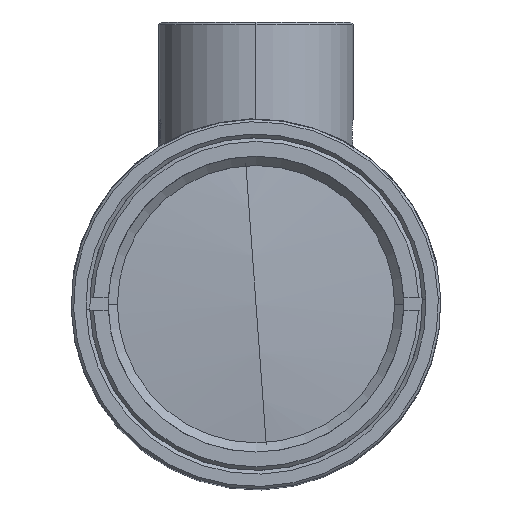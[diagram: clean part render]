
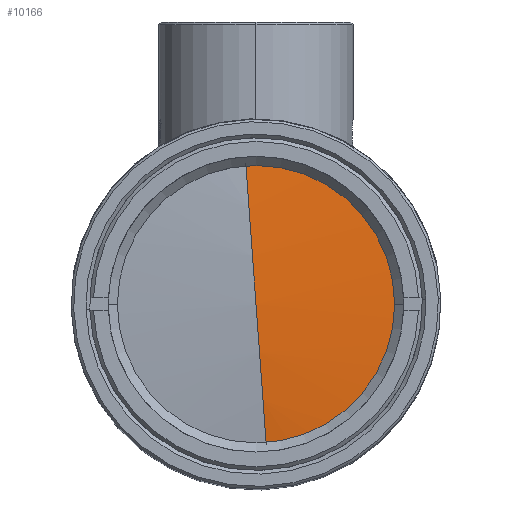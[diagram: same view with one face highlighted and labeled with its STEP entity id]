
A CAD part, top view. The second image highlights one B-rep face of the part: STEP entity #10166.
In plain terms, the highlighted spherical face has radius 97.7 mm.
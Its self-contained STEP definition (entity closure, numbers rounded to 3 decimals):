
#9633 = EDGE_CURVE('',#9634,#9636,#9638,.T.);
#9634 = VERTEX_POINT('',#9635);
#9635 = CARTESIAN_POINT('',(11.741,0.854,
    140.844));
#9636 = VERTEX_POINT('',#9637);
#9637 = CARTESIAN_POINT('',(-0.854,11.741,
    140.844));
#9638 = SURFACE_CURVE('',#9639,(#9644,#9656),.PCURVE_S1.);
#9639 = CIRCLE('',#9640,11.772);
#9640 = AXIS2_PLACEMENT_3D('',#9641,#9642,#9643);
#9641 = CARTESIAN_POINT('',(0.,0.,
    140.844));
#9642 = DIRECTION('',(-0.,0.,1.));
#9643 = DIRECTION('',(-0.997,-0.073,-0.));
#9644 = PCURVE('',#9645,#9650);
#9645 = CONICAL_SURFACE('',#9646,11.772,0.785);
#9646 = AXIS2_PLACEMENT_3D('',#9647,#9648,#9649);
#9647 = CARTESIAN_POINT('',(0.,0.,
    140.844));
#9648 = DIRECTION('',(0.,0.,-1.));
#9649 = DIRECTION('',(-0.997,-0.073,-0.));
#9650 = DEFINITIONAL_REPRESENTATION('',(#9651),#9655);
#9651 = LINE('',#9652,#9653);
#9652 = CARTESIAN_POINT('',(6.283,0.));
#9653 = VECTOR('',#9654,1.);
#9654 = DIRECTION('',(-1.,0.));
#9655 = ( GEOMETRIC_REPRESENTATION_CONTEXT(2) 
PARAMETRIC_REPRESENTATION_CONTEXT() REPRESENTATION_CONTEXT('',''
  ) );
#9656 = PCURVE('',#9657,#9662);
#9657 = SPHERICAL_SURFACE('',#9658,97.7);
#9658 = AXIS2_PLACEMENT_3D('',#9659,#9660,#9661);
#9659 = CARTESIAN_POINT('',(0.,0.,43.856
    ));
#9660 = DIRECTION('',(-0.997,-0.073,0.));
#9661 = DIRECTION('',(-0.073,0.997,0.));
#9662 = DEFINITIONAL_REPRESENTATION('',(#9663),#9689);
#9663 = B_SPLINE_CURVE_WITH_KNOTS('',3,(#9664,#9665,#9666,#9667,#9668,
    #9669,#9670,#9671,#9672,#9673,#9674,#9675,#9676,#9677,#9678,#9679,
    #9680,#9681,#9682,#9683,#9684,#9685,#9686,#9687,#9688),
  .UNSPECIFIED.,.F.,.F.,(4,1,1,1,1,1,1,1,1,1,1,1,1,1,1,1,1,1,1,1,1,1,4),
  (3.142,3.213,3.284,3.356,
    3.427,3.499,3.57,3.641,
    3.713,3.784,3.856,3.927,
    3.998,4.07,4.141,4.213,
    4.284,4.355,4.427,4.498,
    4.57,4.641,4.712),
  .QUASI_UNIFORM_KNOTS.);
#9664 = CARTESIAN_POINT('',(4.712,-0.121));
#9665 = CARTESIAN_POINT('',(4.715,-0.121));
#9666 = CARTESIAN_POINT('',(4.721,-0.121));
#9667 = CARTESIAN_POINT('',(4.73,-0.12));
#9668 = CARTESIAN_POINT('',(4.738,-0.118));
#9669 = CARTESIAN_POINT('',(4.747,-0.116));
#9670 = CARTESIAN_POINT('',(4.755,-0.113));
#9671 = CARTESIAN_POINT('',(4.763,-0.11));
#9672 = CARTESIAN_POINT('',(4.771,-0.106));
#9673 = CARTESIAN_POINT('',(4.778,-0.102));
#9674 = CARTESIAN_POINT('',(4.785,-0.097));
#9675 = CARTESIAN_POINT('',(4.792,-0.091));
#9676 = CARTESIAN_POINT('',(4.798,-0.085));
#9677 = CARTESIAN_POINT('',(4.804,-0.079));
#9678 = CARTESIAN_POINT('',(4.809,-0.072));
#9679 = CARTESIAN_POINT('',(4.814,-0.065));
#9680 = CARTESIAN_POINT('',(4.819,-0.058));
#9681 = CARTESIAN_POINT('',(4.822,-0.05));
#9682 = CARTESIAN_POINT('',(4.826,-0.042));
#9683 = CARTESIAN_POINT('',(4.828,-0.034));
#9684 = CARTESIAN_POINT('',(4.831,-0.026));
#9685 = CARTESIAN_POINT('',(4.832,-0.017));
#9686 = CARTESIAN_POINT('',(4.833,-0.009));
#9687 = CARTESIAN_POINT('',(4.833,-0.003));
#9688 = CARTESIAN_POINT('',(4.833,0.));
#9689 = ( GEOMETRIC_REPRESENTATION_CONTEXT(2) 
PARAMETRIC_REPRESENTATION_CONTEXT() REPRESENTATION_CONTEXT('',''
  ) );
#9707 = CONICAL_SURFACE('',#9708,11.772,0.785);
#9708 = AXIS2_PLACEMENT_3D('',#9709,#9710,#9711);
#9709 = CARTESIAN_POINT('',(0.,0.,
    140.844));
#9710 = DIRECTION('',(0.,0.,-1.));
#9711 = DIRECTION('',(-0.997,-0.073,-0.));
#9786 = SPHERICAL_SURFACE('',#9787,97.7);
#9787 = AXIS2_PLACEMENT_3D('',#9788,#9789,#9790);
#9788 = CARTESIAN_POINT('',(0.,0.,43.856
    ));
#9789 = DIRECTION('',(-0.997,-0.073,0.));
#9790 = DIRECTION('',(-0.073,0.997,0.));
#10076 = VERTEX_POINT('',#10077);
#10077 = CARTESIAN_POINT('',(0.854,-11.741,
    140.844));
#10121 = EDGE_CURVE('',#10076,#10122,#10124,.T.);
#10122 = VERTEX_POINT('',#10123);
#10123 = CARTESIAN_POINT('',(0.,0.,
    141.556));
#10124 = SURFACE_CURVE('',#10125,(#10130,#10137),.PCURVE_S1.);
#10125 = CIRCLE('',#10126,97.7);
#10126 = AXIS2_PLACEMENT_3D('',#10127,#10128,#10129);
#10127 = CARTESIAN_POINT('',(0.,0.,
    43.856));
#10128 = DIRECTION('',(-0.997,-0.073,0.));
#10129 = DIRECTION('',(0.073,-0.997,0.));
#10130 = PCURVE('',#9786,#10131);
#10131 = DEFINITIONAL_REPRESENTATION('',(#10132),#10136);
#10132 = LINE('',#10133,#10134);
#10133 = CARTESIAN_POINT('',(3.142,0.));
#10134 = VECTOR('',#10135,1.);
#10135 = DIRECTION('',(1.,0.));
#10136 = ( GEOMETRIC_REPRESENTATION_CONTEXT(2) 
PARAMETRIC_REPRESENTATION_CONTEXT() REPRESENTATION_CONTEXT('',''
  ) );
#10137 = PCURVE('',#9657,#10138);
#10138 = DEFINITIONAL_REPRESENTATION('',(#10139),#10143);
#10139 = LINE('',#10140,#10141);
#10140 = CARTESIAN_POINT('',(3.142,0.));
#10141 = VECTOR('',#10142,1.);
#10142 = DIRECTION('',(1.,0.));
#10143 = ( GEOMETRIC_REPRESENTATION_CONTEXT(2) 
PARAMETRIC_REPRESENTATION_CONTEXT() REPRESENTATION_CONTEXT('',''
  ) );
#10145 = EDGE_CURVE('',#9636,#10122,#10146,.T.);
#10146 = SURFACE_CURVE('',#10147,(#10152,#10159),.PCURVE_S1.);
#10147 = CIRCLE('',#10148,97.7);
#10148 = AXIS2_PLACEMENT_3D('',#10149,#10150,#10151);
#10149 = CARTESIAN_POINT('',(0.,0.,
    43.856));
#10150 = DIRECTION('',(0.997,0.073,-0.));
#10151 = DIRECTION('',(-0.073,0.997,0.));
#10152 = PCURVE('',#9786,#10153);
#10153 = DEFINITIONAL_REPRESENTATION('',(#10154),#10158);
#10154 = LINE('',#10155,#10156);
#10155 = CARTESIAN_POINT('',(6.283,0.));
#10156 = VECTOR('',#10157,1.);
#10157 = DIRECTION('',(-1.,0.));
#10158 = ( GEOMETRIC_REPRESENTATION_CONTEXT(2) 
PARAMETRIC_REPRESENTATION_CONTEXT() REPRESENTATION_CONTEXT('',''
  ) );
#10159 = PCURVE('',#9657,#10160);
#10160 = DEFINITIONAL_REPRESENTATION('',(#10161),#10165);
#10161 = LINE('',#10162,#10163);
#10162 = CARTESIAN_POINT('',(6.283,0.));
#10163 = VECTOR('',#10164,1.);
#10164 = DIRECTION('',(-1.,0.));
#10165 = ( GEOMETRIC_REPRESENTATION_CONTEXT(2) 
PARAMETRIC_REPRESENTATION_CONTEXT() REPRESENTATION_CONTEXT('',''
  ) );
#10166 = ADVANCED_FACE('',(#10167),#9657,.T.);
#10167 = FACE_BOUND('',#10168,.T.);
#10168 = EDGE_LOOP('',(#10169,#10170,#10214,#10215));
#10169 = ORIENTED_EDGE('',*,*,#10121,.F.);
#10170 = ORIENTED_EDGE('',*,*,#10171,.T.);
#10171 = EDGE_CURVE('',#10076,#9634,#10172,.T.);
#10172 = SURFACE_CURVE('',#10173,(#10178,#10207),.PCURVE_S1.);
#10173 = CIRCLE('',#10174,11.772);
#10174 = AXIS2_PLACEMENT_3D('',#10175,#10176,#10177);
#10175 = CARTESIAN_POINT('',(0.,0.,
    140.844));
#10176 = DIRECTION('',(-0.,0.,1.));
#10177 = DIRECTION('',(-0.997,-0.073,-0.));
#10178 = PCURVE('',#9657,#10179);
#10179 = DEFINITIONAL_REPRESENTATION('',(#10180),#10206);
#10180 = B_SPLINE_CURVE_WITH_KNOTS('',3,(#10181,#10182,#10183,#10184,
    #10185,#10186,#10187,#10188,#10189,#10190,#10191,#10192,#10193,
    #10194,#10195,#10196,#10197,#10198,#10199,#10200,#10201,#10202,
    #10203,#10204,#10205),.UNSPECIFIED.,.F.,.F.,(4,1,1,1,1,1,1,1,1,1,1,1
    ,1,1,1,1,1,1,1,1,1,1,4),(1.571,1.642,
    1.714,1.785,1.856,1.928,
    1.999,2.071,2.142,2.213,
    2.285,2.356,2.428,2.499,
    2.57,2.642,2.713,2.785,
    2.856,2.927,2.999,3.07,
    3.142),.QUASI_UNIFORM_KNOTS.);
#10181 = CARTESIAN_POINT('',(4.592,0.));
#10182 = CARTESIAN_POINT('',(4.592,-0.003));
#10183 = CARTESIAN_POINT('',(4.592,-0.009));
#10184 = CARTESIAN_POINT('',(4.593,-0.017));
#10185 = CARTESIAN_POINT('',(4.594,-0.026));
#10186 = CARTESIAN_POINT('',(4.596,-0.034));
#10187 = CARTESIAN_POINT('',(4.599,-0.042));
#10188 = CARTESIAN_POINT('',(4.602,-0.05));
#10189 = CARTESIAN_POINT('',(4.606,-0.058));
#10190 = CARTESIAN_POINT('',(4.611,-0.065));
#10191 = CARTESIAN_POINT('',(4.615,-0.072));
#10192 = CARTESIAN_POINT('',(4.621,-0.079));
#10193 = CARTESIAN_POINT('',(4.627,-0.085));
#10194 = CARTESIAN_POINT('',(4.633,-0.091));
#10195 = CARTESIAN_POINT('',(4.64,-0.097));
#10196 = CARTESIAN_POINT('',(4.647,-0.102));
#10197 = CARTESIAN_POINT('',(4.654,-0.106));
#10198 = CARTESIAN_POINT('',(4.662,-0.11));
#10199 = CARTESIAN_POINT('',(4.67,-0.113));
#10200 = CARTESIAN_POINT('',(4.678,-0.116));
#10201 = CARTESIAN_POINT('',(4.687,-0.118));
#10202 = CARTESIAN_POINT('',(4.695,-0.12));
#10203 = CARTESIAN_POINT('',(4.704,-0.121));
#10204 = CARTESIAN_POINT('',(4.71,-0.121));
#10205 = CARTESIAN_POINT('',(4.712,-0.121));
#10206 = ( GEOMETRIC_REPRESENTATION_CONTEXT(2) 
PARAMETRIC_REPRESENTATION_CONTEXT() REPRESENTATION_CONTEXT('',''
  ) );
#10207 = PCURVE('',#9707,#10208);
#10208 = DEFINITIONAL_REPRESENTATION('',(#10209),#10213);
#10209 = LINE('',#10210,#10211);
#10210 = CARTESIAN_POINT('',(6.283,0.));
#10211 = VECTOR('',#10212,1.);
#10212 = DIRECTION('',(-1.,0.));
#10213 = ( GEOMETRIC_REPRESENTATION_CONTEXT(2) 
PARAMETRIC_REPRESENTATION_CONTEXT() REPRESENTATION_CONTEXT('',''
  ) );
#10214 = ORIENTED_EDGE('',*,*,#9633,.T.);
#10215 = ORIENTED_EDGE('',*,*,#10145,.T.);
